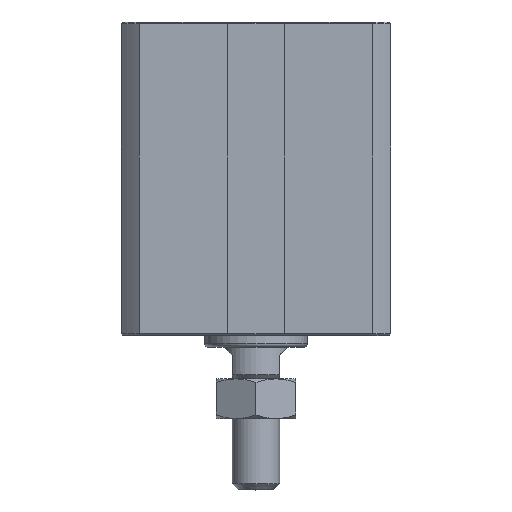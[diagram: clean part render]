
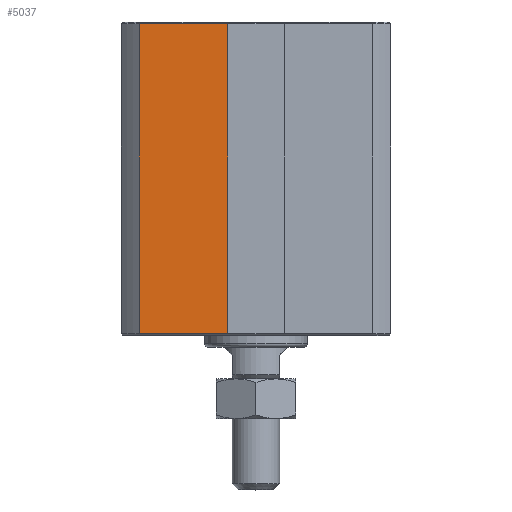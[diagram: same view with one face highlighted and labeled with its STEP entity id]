
A CAD part, top view. The second image highlights one B-rep face of the part: STEP entity #5037.
In plain terms, the highlighted planar face has unit normal (0, 0, 1).
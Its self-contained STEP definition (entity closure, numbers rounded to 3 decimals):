
#70=LINE('',#7069,#344);
#72=LINE('',#7073,#346);
#73=LINE('',#7075,#347);
#74=LINE('',#7077,#348);
#344=VECTOR('',#6017,1000.);
#346=VECTOR('',#6021,1000.);
#347=VECTOR('',#6022,1000.);
#348=VECTOR('',#6023,1000.);
#702=PLANE('',#5384);
#1157=ORIENTED_EDGE('',*,*,#1917,.F.);
#1158=ORIENTED_EDGE('',*,*,#1919,.T.);
#1159=ORIENTED_EDGE('',*,*,#1920,.T.);
#1160=ORIENTED_EDGE('',*,*,#1921,.T.);
#1917=EDGE_CURVE('',#2336,#2337,#70,.T.);
#1919=EDGE_CURVE('',#2336,#2338,#72,.T.);
#1920=EDGE_CURVE('',#2338,#2339,#73,.T.);
#1921=EDGE_CURVE('',#2339,#2337,#74,.T.);
#2336=VERTEX_POINT('',#7068);
#2337=VERTEX_POINT('',#7070);
#2338=VERTEX_POINT('',#7074);
#2339=VERTEX_POINT('',#7076);
#2797=EDGE_LOOP('',(#1157,#1158,#1159,#1160));
#3103=FACE_BOUND('',#2797,.T.);
#5037=ADVANCED_FACE('',(#3103),#702,.T.);
#5384=AXIS2_PLACEMENT_3D('',#7072,#6019,#6020);
#6017=DIRECTION('',(0.,-1.,0.));
#6019=DIRECTION('',(0.,0.,1.));
#6020=DIRECTION('',(1.,0.,0.));
#6021=DIRECTION('',(-1.,0.,0.));
#6022=DIRECTION('',(0.,-1.,0.));
#6023=DIRECTION('',(1.,0.,0.));
#7068=CARTESIAN_POINT('',(-3.55,39.3,16.997));
#7069=CARTESIAN_POINT('',(-3.55,29.5,16.997));
#7070=CARTESIAN_POINT('',(-3.55,0.2,16.997));
#7072=CARTESIAN_POINT('',(-3.55,29.5,16.997));
#7073=CARTESIAN_POINT('',(-3.55,39.3,16.997));
#7074=CARTESIAN_POINT('',(-14.741,39.3,16.997));
#7075=CARTESIAN_POINT('',(-14.741,29.5,16.997));
#7076=CARTESIAN_POINT('',(-14.741,0.2,16.997));
#7077=CARTESIAN_POINT('',(-3.55,0.2,16.997));
